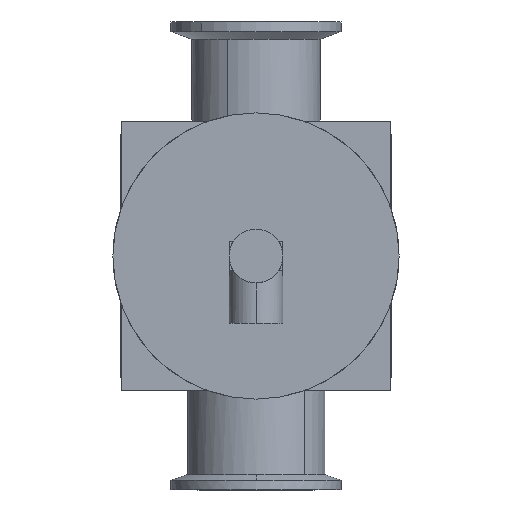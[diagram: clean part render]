
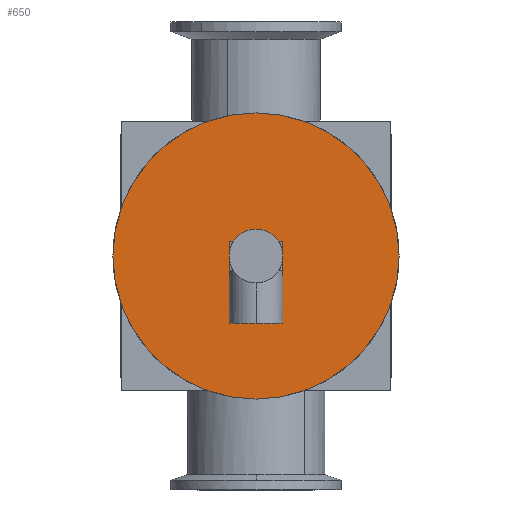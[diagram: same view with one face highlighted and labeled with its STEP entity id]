
A CAD part, front view. The second image highlights one B-rep face of the part: STEP entity #650.
In plain terms, the highlighted planar face has unit normal (0, -1, 0) as drawn and (0, 1, 0) by its records, which use the part's own axes.
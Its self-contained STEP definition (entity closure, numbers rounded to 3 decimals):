
#300=CARTESIAN_POINT('',(-21.25,167.,0.));
#310=DIRECTION('',(-0.,-1.,-0.));
#320=DIRECTION('',(-1.,0.,0.));
#330=AXIS2_PLACEMENT_3D('',#300,#310,#320);
#340=PLANE('',#330);
#350=CARTESIAN_POINT('',(0.,167.,0.));
#360=DIRECTION('',(0.,1.,0.));
#370=DIRECTION('',(0.,0.,-1.));
#380=AXIS2_PLACEMENT_3D('',#350,#360,#370);
#390=CIRCLE('',#380,8.);
#400=CARTESIAN_POINT('',(0.,167.,-8.));
#410=VERTEX_POINT('',#400);
#420=CARTESIAN_POINT('',(0.,167.,8.));
#430=VERTEX_POINT('',#420);
#440=EDGE_CURVE('',#410,#430,#390,.T.);
#450=ORIENTED_EDGE('',*,*,#440,.F.);
#460=EDGE_CURVE('',#430,#410,#390,.T.);
#470=ORIENTED_EDGE('',*,*,#460,.F.);
#480=EDGE_LOOP('',(#470,#450));
#490=FACE_BOUND('',#480,.T.);
#500=CARTESIAN_POINT('',(0.,167.,0.));
#510=DIRECTION('',(0.,1.,0.));
#520=DIRECTION('',(-1.,0.,0.));
#530=AXIS2_PLACEMENT_3D('',#500,#510,#520);
#540=CIRCLE('',#530,42.5);
#550=CARTESIAN_POINT('',(42.5,167.,0.));
#560=VERTEX_POINT('',#550);
#570=CARTESIAN_POINT('',(-42.5,167.,0.));
#580=VERTEX_POINT('',#570);
#590=EDGE_CURVE('',#560,#580,#540,.T.);
#600=ORIENTED_EDGE('',*,*,#590,.T.);
#610=EDGE_CURVE('',#580,#560,#540,.T.);
#620=ORIENTED_EDGE('',*,*,#610,.T.);
#630=EDGE_LOOP('',(#620,#600));
#640=FACE_OUTER_BOUND('',#630,.T.);
#650=ADVANCED_FACE('',(#490,#640),#340,.F.);
